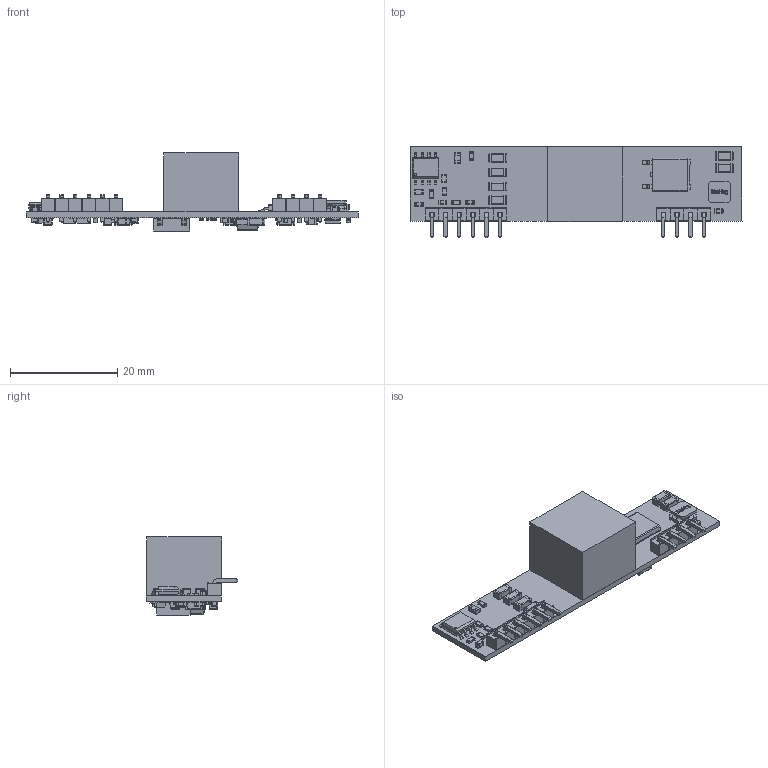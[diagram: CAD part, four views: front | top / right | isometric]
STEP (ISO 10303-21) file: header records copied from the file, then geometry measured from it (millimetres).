
FILE_DESCRIPTION(('CATIA V5 STEP Exchange'),'2;1');
FILE_NAME('C:\Users\Vishnu\Desktop\PW324H1INR6VFF-09.stp','2025-06-19T07:23:10+00:00',('none'),('none'),'CATIA Version 5 Release 21 GA (IN-10)','CATIA V5 STEP AP203','none');
FILE_SCHEMA(('CONFIG_CONTROL_DESIGN'));
Length unit declared in the file: millimetre
Products named in the file (72): PCB; Board; T1; 7251485376; C9; C0603; R10; R4; R7; U2; C6; C0805; D4; Q1; R21; C1206; C17; R25; R12; C20; C4; D2; U4; TL431AIDBZR; C19; R15; C13; C15; R23; C0805_1; C22; R19; R17; R18; C3; R13; C14; D5; C5; U3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
Assembly tree (168 placements, depth 4):
  PCB
    Board
      #66
    T1
      7251485376
        #1570
    C9
      C0603
        #1787
        #2259
        #2740
    R10
      #3099
    R4
      #3099
    R7
      #3099
    U2
      #4779
    C6
      C0805
        #8854
        #9326
        #9807
    D4
      #10166
    Q1
      #11640
    R21
      C1206
        #13314
        #13786
        #14267
    C17
      C0603
        #1787
        #2259
        #2740
    R25
      #3099
    R12
      #3099
    C20
      C1206
        #13314
        #13786
        #14267
    C4
      C0603
        #1787
        #2259
        #2740
    D2
      #14806
    U4
      TL431AIDBZR
        #16090
        #16733
        #17574
    C19
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Bounding box: 61.99 x 17.06 x 14.58 mm (x, y, z)
Volume: 3663.3 mm3; surface area: 5166.9 mm2
Topology: 251 solids, 251 shells, 3576 faces, 8468 edges, 5156 vertices
Faces by surface type: plane 1893, cylinder 840, bspline 544, sphere 256, extrusion 39, torus 4
Entity records: 38596 total; most frequent: CARTESIAN_POINT 9715, ORIENTED_EDGE 5600, DIRECTION 5362, EDGE_CURVE 2800, VECTOR 2121, LINE 2082, VERTEX_POINT 1808, AXIS2_PLACEMENT_3D 1797
